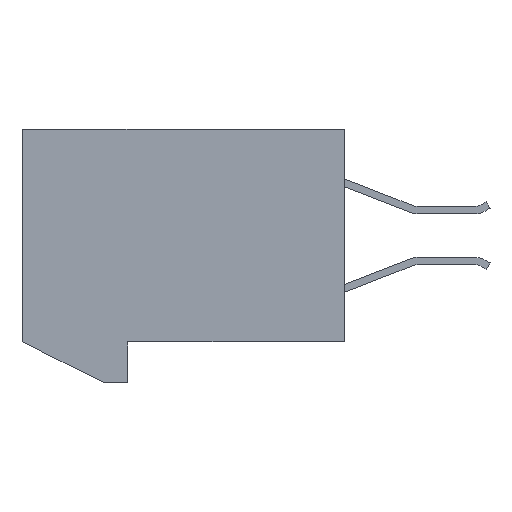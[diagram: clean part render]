
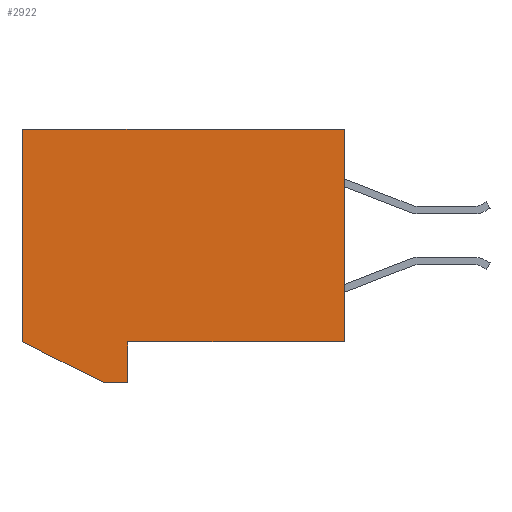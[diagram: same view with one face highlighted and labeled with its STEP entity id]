
A CAD part, left-side view. The second image highlights one B-rep face of the part: STEP entity #2922.
In plain terms, the highlighted planar face has unit normal (-1, 0, 0).
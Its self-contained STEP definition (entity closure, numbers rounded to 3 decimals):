
#2922 = ADVANCED_FACE( '', ( #8340 ), #8341, .T. );
#8340 = FACE_OUTER_BOUND( '', #16393, .T. );
#8341 = PLANE( '', #16394 );
#16393 = EDGE_LOOP( '', ( #25194, #25195, #25196, #25197, #25198, #25199, #25200 ) );
#16394 = AXIS2_PLACEMENT_3D( '', #25201, #25202, #25203 );
#25194 = ORIENTED_EDGE( '', *, *, #51915, .F. );
#25195 = ORIENTED_EDGE( '', *, *, #51916, .F. );
#25196 = ORIENTED_EDGE( '', *, *, #51917, .F. );
#25197 = ORIENTED_EDGE( '', *, *, #51918, .F. );
#25198 = ORIENTED_EDGE( '', *, *, #51919, .F. );
#25199 = ORIENTED_EDGE( '', *, *, #51920, .F. );
#25200 = ORIENTED_EDGE( '', *, *, #51921, .T. );
#25201 = CARTESIAN_POINT( '', ( -26.5, 10.35, -3.65 ) );
#25202 = DIRECTION( '', ( -1., 0., 0. ) );
#25203 = DIRECTION( '', ( 0., 0., 1. ) );
#51915 = EDGE_CURVE( '', #63442, #63443, #63444, .T. );
#51916 = EDGE_CURVE( '', #63445, #63442, #63446, .T. );
#51917 = EDGE_CURVE( '', #63447, #63445, #63448, .T. );
#51918 = EDGE_CURVE( '', #63449, #63447, #63450, .T. );
#51919 = EDGE_CURVE( '', #63451, #63449, #63452, .T. );
#51920 = EDGE_CURVE( '', #63453, #63451, #63454, .T. );
#51921 = EDGE_CURVE( '', #63453, #63443, #63455, .T. );
#63442 = VERTEX_POINT( '', #80342 );
#63443 = VERTEX_POINT( '', #80343 );
#63444 = LINE( '', #80344, #80345 );
#63445 = VERTEX_POINT( '', #80346 );
#63446 = LINE( '', #80347, #80348 );
#63447 = VERTEX_POINT( '', #80349 );
#63448 = LINE( '', #80350, #80351 );
#63449 = VERTEX_POINT( '', #80352 );
#63450 = LINE( '', #80353, #80354 );
#63451 = VERTEX_POINT( '', #80355 );
#63452 = LINE( '', #80356, #80357 );
#63453 = VERTEX_POINT( '', #80358 );
#63454 = LINE( '', #80359, #80360 );
#63455 = LINE( '', #80361, #80362 );
#80342 = CARTESIAN_POINT( '', ( -26.5, 11.05, -3.65 ) );
#80343 = CARTESIAN_POINT( '', ( -26.5, 11.05, 3.65 ) );
#80344 = CARTESIAN_POINT( '', ( -26.5, 11.05, -3.65 ) );
#80345 = VECTOR( '', #102474, 1000. );
#80346 = CARTESIAN_POINT( '', ( -26.5, 8.249, -5.05 ) );
#80347 = CARTESIAN_POINT( '', ( -26.5, 8.249, -5.05 ) );
#80348 = VECTOR( '', #102475, 1000. );
#80349 = CARTESIAN_POINT( '', ( -26.5, 7.449, -5.05 ) );
#80350 = CARTESIAN_POINT( '', ( -26.5, 7.449, -5.05 ) );
#80351 = VECTOR( '', #102476, 1000. );
#80352 = CARTESIAN_POINT( '', ( -26.5, 7.449, -3.65 ) );
#80353 = CARTESIAN_POINT( '', ( -26.5, 7.449, -3.65 ) );
#80354 = VECTOR( '', #102477, 1000. );
#80355 = CARTESIAN_POINT( '', ( -26.5, 0., -3.65 ) );
#80356 = CARTESIAN_POINT( '', ( -26.5, 10.35, -3.65 ) );
#80357 = VECTOR( '', #102478, 1000. );
#80358 = CARTESIAN_POINT( '', ( -26.5, 0., 3.65 ) );
#80359 = CARTESIAN_POINT( '', ( -26.5, 0., 3.65 ) );
#80360 = VECTOR( '', #102479, 1000. );
#80361 = CARTESIAN_POINT( '', ( -26.5, 10.35, 3.65 ) );
#80362 = VECTOR( '', #102480, 1000. );
#102474 = DIRECTION( '', ( 0., 0., 1. ) );
#102475 = DIRECTION( '', ( 0., 0.894, 0.447 ) );
#102476 = DIRECTION( '', ( 0., 1., 0. ) );
#102477 = DIRECTION( '', ( 0., 0., -1. ) );
#102478 = DIRECTION( '', ( 0., 1., 0. ) );
#102479 = DIRECTION( '', ( 0., 0., -1. ) );
#102480 = DIRECTION( '', ( 0., 1., 0. ) );
